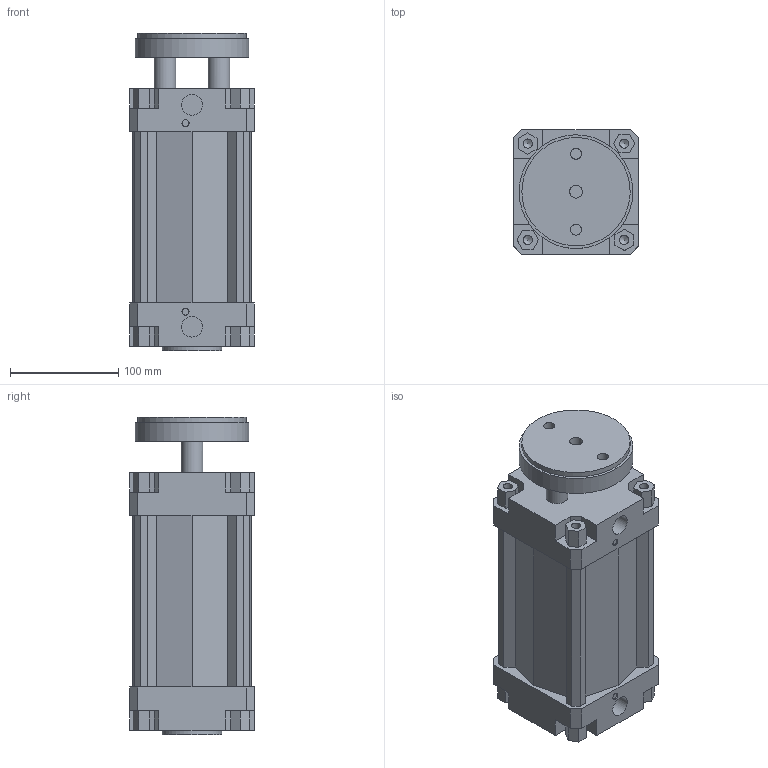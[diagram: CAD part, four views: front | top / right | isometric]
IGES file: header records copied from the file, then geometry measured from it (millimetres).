
Global section: file name: 132#_100_0100_01; native system: Autodesk Inventor 2014; preprocessor: unknown; author: A. Manieri; date: 20161006.163646; units: millimetre
Bounding box: 115 x 115 x 293 mm (x, y, z)
Volume: 2088624.8 mm3; surface area: 303473.3 mm2
Topology: 2 solids, 2 shells, 180 faces, 491 edges, 335 vertices
Faces by surface type: bspline 180
